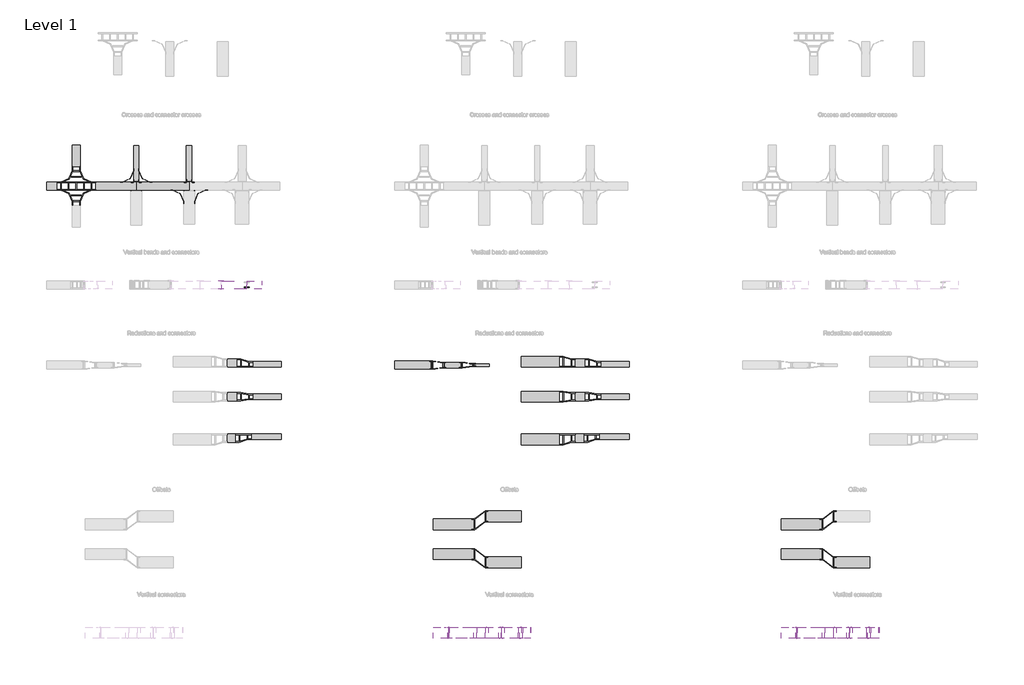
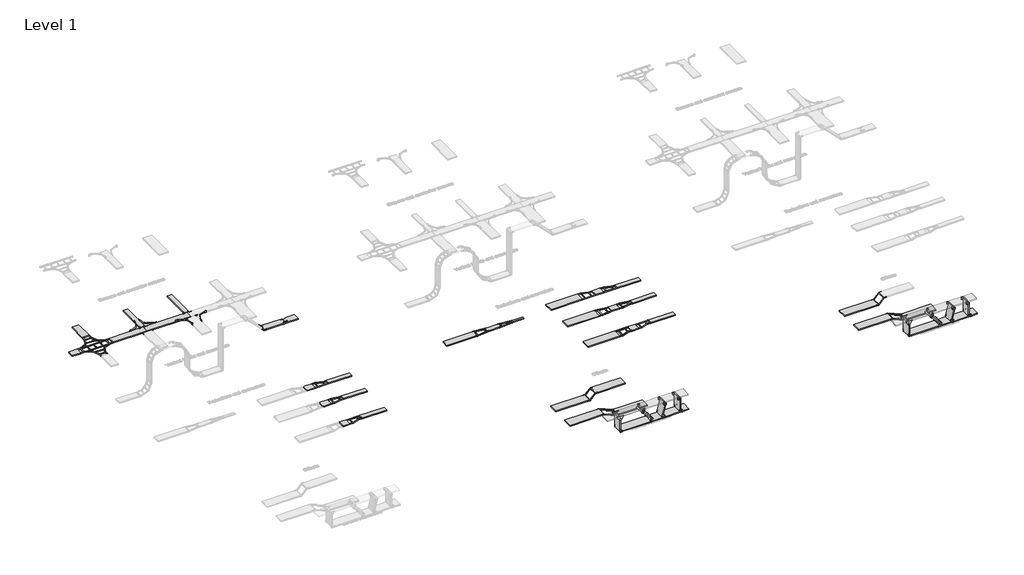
# One storey, part 9 of 106: 63 cable carrier fittings, 59 cable carrier segments.
"""IFC4 building model written with IfcOpenShell, lengths in millimetres."""

from ifc_helpers import new_model, si_unit, frame, origin, place, context, project, spatial, polyline, outline, extrude, transform, mapped, element, save
from components import cable_carrier_fitting_c78842c5, cable_carrier_fitting_6b69b3b7, cable_carrier_fitting_2d894193, cable_carrier_fitting_0f11f104, cable_carrier_fitting_c89aad98, cable_carrier_fitting_28cc8021, cable_carrier_fitting_6c66d9f1, cable_carrier_fitting_4c1293df, cable_carrier_fitting_edb32cbd, cable_carrier_fitting_a9217249, cable_carrier_fitting_c660702d, cable_carrier_fitting_87479157, cable_carrier_fitting_b11fac2c, cable_carrier_fitting_3ee89383, cable_carrier_fitting_dba92b4f, cable_carrier_fitting_45659740, cable_carrier_fitting_ec1c524e, cable_carrier_fitting_41da71e9, cable_carrier_fitting_05152c93, cable_carrier_fitting_202d3e5f, cable_carrier_fitting_ba505e55, cable_carrier_fitting_958e6ea8, cable_carrier_fitting_c25b36c4, cable_carrier_fitting_df7fb664, cable_carrier_fitting_384de159, cable_carrier_fitting_cef1446e, cable_carrier_fitting_671e1b7f, cable_carrier_fitting_ea2b664d, cable_carrier_fitting_c0237f39, cable_carrier_fitting_32c3d949, cable_carrier_fitting_d493446b, cable_carrier_fitting_82e7e0fc

model = new_model("IFC4")

# Units and contexts
model_context = context("Model", 3, world=origin())
ifc_project = project(units=[si_unit("LENGTHUNIT", "METRE", prefix="MILLI")], contexts=[model_context])

# Site, building, storey
site = spatial("IfcSite", under=ifc_project)
building = spatial("IfcBuilding", under=site)
storey = spatial("IfcBuildingStorey", under=building, Name="Level 1", Elevation=0.0)

# Cable carrier fittings
placement = place(None, origin())
cable_carrier_fitting_shape = cable_carrier_fitting_c78842c5(model_context)
element("IfcCableCarrierFitting", 1, ObjectType="BAKS_LD_CONN_Straight connector_LDC : LDC_H45", at=placement, inside=storey, context=model_context, shape_type="MappedRepresentation", body=[
    mapped(cable_carrier_fitting_shape, transform((33184.5221787, 24506.9805429, 1239.8602102), x_axis=(1.0, 0.0, 0.0), y_axis=(0.0, 1.0, 0.0), z_axis=(0.0, 0.0, 1.0))),
])
cable_carrier_fitting_2_shape = cable_carrier_fitting_6b69b3b7(model_context)
element("IfcCableCarrierFitting", 2, ObjectType="BAKS_LD_CONN_Vertical connector light_LPLS : LPLS60", at=placement, inside=storey, context=model_context, shape_type="MappedRepresentation", body=[
    mapped(cable_carrier_fitting_2_shape, transform((40659.0241468, 11907.9361079, 2052.4619182), x_axis=(-1.0, 0.0, 0.0), y_axis=(0.0, 0.0, 1.0), z_axis=(0.0, 1.0, 0.0))),
])
element("IfcCableCarrierFitting", 3, ObjectType="BAKS_LD_CONN_Vertical connector light_LPLS : LPLS60", at=placement, inside=storey, context=model_context, shape_type="MappedRepresentation", body=[
    mapped(cable_carrier_fitting_2_shape, transform((53559.0241468, 11907.9361079, 2052.4619182), x_axis=(-1.0, 0.0, 0.0), y_axis=(0.0, 0.0, 1.0), z_axis=(0.0, 1.0, 0.0))),
])
cable_carrier_fitting_3_shape = cable_carrier_fitting_2d894193(model_context)
element("IfcCableCarrierFitting", 4, ObjectType="BAKS_LD_CONN_Angle coupler bendable_LKU : LKUP_H45", at=placement, inside=storey, context=model_context, shape_type="MappedRepresentation", body=[
    mapped(cable_carrier_fitting_3_shape, transform((29189.2849338, 28420.7686574, 32.5), x_axis=(-1.0, 0.0, 0.0), y_axis=(0.0, -1.0, 0.0), z_axis=(0.0, 0.0, 1.0))),
])
element("IfcCableCarrierFitting", 5, ObjectType="BAKS_LD_CONN_Angle coupler bendable_LKU : LKUP_H45", at=placement, inside=storey, context=model_context, shape_type="MappedRepresentation", body=[
    mapped(cable_carrier_fitting_3_shape, transform((28989.2849338, 28420.7686574, 32.5), x_axis=(0.0, -1.0, 0.0), y_axis=(1.0, 0.0, 0.0), z_axis=(0.0, 0.0, 1.0))),
])
element("IfcCableCarrierFitting", 6, ObjectType="BAKS_LD_CONN_Angle coupler bendable_LKU : LKUP_H45", at=placement, inside=storey, context=model_context, shape_type="MappedRepresentation", body=[
    mapped(cable_carrier_fitting_3_shape, transform((28889.2849338, 28120.7686574, 30.0), x_axis=(1.0, 0.0, 0.0), y_axis=(0.0, 1.0, 0.0), z_axis=(0.0, 0.0, 1.0))),
])
element("IfcCableCarrierFitting", 7, ObjectType="BAKS_LD_CONN_Angle coupler bendable_LKU : LKUP_H45", at=placement, inside=storey, context=model_context, shape_type="MappedRepresentation", body=[
    mapped(cable_carrier_fitting_3_shape, transform((31150.9231102, 28420.7686574, 32.5), x_axis=(-1.0, 0.0, 0.0), y_axis=(0.0, -1.0, 0.0), z_axis=(0.0, 0.0, 1.0))),
])
element("IfcCableCarrierFitting", 8, ObjectType="BAKS_LD_CONN_Angle coupler bendable_LKU : LKUP_H45", at=placement, inside=storey, context=model_context, shape_type="MappedRepresentation", body=[
    mapped(cable_carrier_fitting_3_shape, transform((30950.9231102, 28420.7686574, 32.5), x_axis=(0.0, -1.0, 0.0), y_axis=(1.0, 0.0, 0.0), z_axis=(0.0, 0.0, 1.0))),
])
element("IfcCableCarrierFitting", 9, ObjectType="BAKS_LD_CONN_Angle coupler bendable_LKU : LKUP_H45", at=placement, inside=storey, context=model_context, shape_type="MappedRepresentation", body=[
    mapped(cable_carrier_fitting_3_shape, transform((30850.9231102, 28120.7686574, 30.0), x_axis=(1.0, 0.0, 0.0), y_axis=(0.0, 1.0, 0.0), z_axis=(0.0, 0.0, 1.0))),
])
cable_carrier_fitting_4_shape = cable_carrier_fitting_0f11f104(model_context)
element("IfcCableCarrierFitting", 10, ObjectType="BAKS_LD_CONN_Addon connector_LDDK : LDDKP", at=placement, inside=storey, context=model_context, shape_type="MappedRepresentation", body=[
    mapped(cable_carrier_fitting_4_shape, transform((29189.2849338, 28420.7686574, 55.0), x_axis=(-1.0, 0.0, 0.0), y_axis=(0.0, -1.0, 0.0), z_axis=(0.0, 0.0, 1.0))),
])
element("IfcCableCarrierFitting", 11, ObjectType="BAKS_LD_CONN_Addon connector_LDDK : LDDKP", at=placement, inside=storey, context=model_context, shape_type="MappedRepresentation", body=[
    mapped(cable_carrier_fitting_4_shape, transform((30850.9231102, 28120.7686574, 55.0), x_axis=(1.0, 0.0, 0.0), y_axis=(0.0, 1.0, 0.0), z_axis=(0.0, 0.0, 1.0))),
])
cable_carrier_fitting_5_shape = cable_carrier_fitting_c89aad98(model_context)
element("IfcCableCarrierFitting", 12, ObjectType="BAKS_LD_CONN_Vertical connector light_LPLS : LPLS60", at=placement, inside=storey, context=model_context, shape_type="MappedRepresentation", body=[
    mapped(cable_carrier_fitting_5_shape, transform((40659.0241468, 11507.9361079, 2052.4619182), x_axis=(-1.0, 0.0, 0.0), y_axis=(0.0, 0.0, -1.0), z_axis=(0.0, -1.0, 0.0))),
])
element("IfcCableCarrierFitting", 13, ObjectType="BAKS_LD_CONN_Vertical connector light_LPLS : LPLS60", at=placement, inside=storey, context=model_context, shape_type="MappedRepresentation", body=[
    mapped(cable_carrier_fitting_5_shape, transform((53559.0241468, 11507.9361079, 2052.4619182), x_axis=(-1.0, 0.0, 0.0), y_axis=(0.0, 0.0, -1.0), z_axis=(0.0, -1.0, 0.0))),
])
cable_carrier_fitting_6_shape = cable_carrier_fitting_28cc8021(model_context)
element("IfcCableCarrierFitting", 14, ObjectType="BAKS_LD_RED_Straight reducer_RD : RD(S/L/P)P_H45", at=placement, inside=storey, context=model_context, shape_type="MappedRepresentation", body=[
    mapped(cable_carrier_fitting_6_shape, transform((44765.5222547, 20457.8476348, 55.0), x_axis=(1.0, 0.0, 0.0), y_axis=(0.0, 1.0, 0.0), z_axis=(0.0, 0.0, 1.0))),
])
cable_carrier_fitting_7_shape = cable_carrier_fitting_6c66d9f1(model_context)
element("IfcCableCarrierFitting", 15, ObjectType="BAKS_LD_BEND_Articulated connector_LG : LGT_H45", at=placement, inside=storey, context=model_context, shape_type="MappedRepresentation", body=[
    mapped(cable_carrier_fitting_7_shape, transform((40659.0241468, 11507.9361079, 1334.7815792), x_axis=(0.0, 0.0, -1.0), y_axis=(1.0, 0.0, 0.0), z_axis=(0.0, -1.0, 0.0))),
])
cable_carrier_fitting_8_shape = cable_carrier_fitting_4c1293df(model_context)
element("IfcCableCarrierFitting", 16, ObjectType="BAKS_LD_BEND_Articulated connector_LG : LGT_H45", at=placement, inside=storey, context=model_context, shape_type="MappedRepresentation", body=[
    mapped(cable_carrier_fitting_8_shape, transform((40659.0241468, 11907.9361079, 1334.7815792), x_axis=(0.0, 0.0, -1.0), y_axis=(-1.0, 0.0, 0.0), z_axis=(0.0, 1.0, 0.0))),
])
cable_carrier_fitting_9_shape = cable_carrier_fitting_edb32cbd(model_context)
element("IfcCableCarrierFitting", 17, ObjectType="BAKS_LD_CROSS_Horizontal cross over_CZD : CZDP_H45", at=placement, inside=storey, context=model_context, shape_type="MappedRepresentation", body=[
    mapped(cable_carrier_fitting_9_shape, transform((26864.7261828, 28270.7686574, 55.0), x_axis=(-1.0, 0.0, 0.0), y_axis=(0.0, -1.0, 0.0), z_axis=(0.0, 0.0, 1.0))),
])
cable_carrier_fitting_10_shape = cable_carrier_fitting_a9217249(model_context)
element("IfcCableCarrierFitting", 18, ObjectType="BAKS_LD_CONN_Addon connector_LDDK : LDDKP", at=placement, inside=storey, context=model_context, shape_type="MappedRepresentation", body=[
    mapped(cable_carrier_fitting_10_shape, transform((28989.2849338, 28420.7686574, 55.0), x_axis=(1.0, 0.0, 0.0), y_axis=(0.0, 1.0, 0.0), z_axis=(0.0, 0.0, 1.0))),
])
element("IfcCableCarrierFitting", 19, ObjectType="BAKS_LD_CONN_Addon connector_LDDK : LDDKP", at=placement, inside=storey, context=model_context, shape_type="MappedRepresentation", body=[
    mapped(cable_carrier_fitting_10_shape, transform((31250.9231102, 28120.7686574, 55.0), x_axis=(-1.0, 0.0, 0.0), y_axis=(0.0, -1.0, 0.0), z_axis=(0.0, 0.0, 1.0))),
])
cable_carrier_fitting_11_shape = cable_carrier_fitting_c660702d(model_context)
element("IfcCableCarrierFitting", 20, ObjectType="BAKS_LD_CONN_Angle coupler bendable_LKU : LKUP_H45", at=placement, inside=storey, context=model_context, shape_type="MappedRepresentation", body=[
    mapped(cable_carrier_fitting_11_shape, transform((29289.2849338, 28120.7686574, 30.0), x_axis=(-1.0, 0.0, 0.0), y_axis=(0.0, -1.0, 0.0), z_axis=(0.0, 0.0, 1.0))),
])
element("IfcCableCarrierFitting", 21, ObjectType="BAKS_LD_CONN_Angle coupler bendable_LKU : LKUP_H45", at=placement, inside=storey, context=model_context, shape_type="MappedRepresentation", body=[
    mapped(cable_carrier_fitting_11_shape, transform((31250.9231102, 28120.7686574, 30.0), x_axis=(-1.0, 0.0, 0.0), y_axis=(0.0, -1.0, 0.0), z_axis=(0.0, 0.0, 1.0))),
])
cable_carrier_fitting_12_shape = cable_carrier_fitting_87479157(model_context)
element("IfcCableCarrierFitting", 22, ObjectType="BAKS_LD_BEND_Articulated connector_LG : LGT_H45", at=placement, inside=storey, context=model_context, shape_type="MappedRepresentation", body=[
    mapped(cable_carrier_fitting_12_shape, transform((32224.5221787, 24456.9805429, 1239.8602102), x_axis=(0.7071067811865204, 0.0, -0.7071067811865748), y_axis=(0.7071067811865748, 0.0, 0.7071067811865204), z_axis=(0.0, -1.0, 0.0))),
])
cable_carrier_fitting_13_shape = cable_carrier_fitting_b11fac2c(model_context)
element("IfcCableCarrierFitting", 23, ObjectType="BAKS_LD_BEND_Articulated connector_LG : LGT_H45", at=placement, inside=storey, context=model_context, shape_type="MappedRepresentation", body=[
    mapped(cable_carrier_fitting_13_shape, transform((32224.5221787, 24756.9805429, 1239.8602102), x_axis=(0.7071067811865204, 0.0, -0.7071067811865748), y_axis=(-0.7071067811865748, 0.0, -0.7071067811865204), z_axis=(0.0, 1.0, 0.0))),
])
cable_carrier_fitting_14_shape = cable_carrier_fitting_3ee89383(model_context)
element("IfcCableCarrierFitting", 24, ObjectType="BAKS_LD_CONN_Univarsal connector reduction_LLUS : LLUSP_H45", at=placement, inside=storey, context=model_context, shape_type="MappedRepresentation", body=[
    mapped(cable_carrier_fitting_14_shape, transform((41064.3823889, 21631.6579459, 55.0), x_axis=(1.0, 0.0, 0.0), y_axis=(0.0, 1.0, 0.0), z_axis=(0.0, 0.0, 1.0))),
])
cable_carrier_fitting_15_shape = cable_carrier_fitting_dba92b4f(model_context)
element("IfcCableCarrierFitting", 25, ObjectType="BAKS_LD_RED_Straight reducer_RD : RD(S/L/P)P_H45", at=placement, inside=storey, context=model_context, shape_type="MappedRepresentation", body=[
    mapped(cable_carrier_fitting_15_shape, transform((44765.5222547, 18871.6579459, 55.0), x_axis=(1.0, 0.0, 0.0), y_axis=(0.0, 1.0, 0.0), z_axis=(0.0, 0.0, 1.0))),
])
cable_carrier_fitting_16_shape = cable_carrier_fitting_45659740(model_context)
element("IfcCableCarrierFitting", 26, ObjectType="BAKS_LD_RED_Straight reducer_RD : RD(S/L/P)P_H45", at=placement, inside=storey, context=model_context, shape_type="MappedRepresentation", body=[
    mapped(cable_carrier_fitting_16_shape, transform((33365.5222547, 18971.6579459, 55.0), x_axis=(-1.0, 0.0, 0.0), y_axis=(0.0, -1.0, 0.0), z_axis=(0.0, 0.0, 1.0))),
])
element("IfcCableCarrierFitting", 27, ObjectType="BAKS_LD_RED_Straight reducer_RD : RD(S/L/P)P_H45", at=placement, inside=storey, context=model_context, shape_type="MappedRepresentation", body=[
    mapped(cable_carrier_fitting_16_shape, transform((46265.5222547, 18971.6579459, 55.0), x_axis=(-1.0, 0.0, 0.0), y_axis=(0.0, -1.0, 0.0), z_axis=(0.0, 0.0, 1.0))),
])
cable_carrier_fitting_17_shape = cable_carrier_fitting_ec1c524e(model_context)
element("IfcCableCarrierFitting", 28, ObjectType="BAKS_LD_RED_Straight reducer_RD : RD(S/L/P)P_H45", at=placement, inside=storey, context=model_context, shape_type="MappedRepresentation", body=[
    mapped(cable_carrier_fitting_17_shape, transform((44765.5222547, 21757.8476348, 55.0), x_axis=(1.0, 0.0, 0.0), y_axis=(0.0, 1.0, 0.0), z_axis=(0.0, 0.0, 1.0))),
])
cable_carrier_fitting_18_shape = cable_carrier_fitting_41da71e9(model_context)
element("IfcCableCarrierFitting", 29, ObjectType="BAKS_LD_RED_Straight reducer_RD : RD(S/L/P)P_H45", at=placement, inside=storey, context=model_context, shape_type="MappedRepresentation", body=[
    mapped(cable_carrier_fitting_18_shape, transform((33416.5656993, 21657.8476348, 55.0), x_axis=(-1.0, 0.0, 0.0), y_axis=(0.0, -1.0, 0.0), z_axis=(0.0, 0.0, 1.0))),
])
element("IfcCableCarrierFitting", 30, ObjectType="BAKS_LD_RED_Straight reducer_RD : RD(S/L/P)P_H45", at=placement, inside=storey, context=model_context, shape_type="MappedRepresentation", body=[
    mapped(cable_carrier_fitting_18_shape, transform((46316.5656993, 21657.8476348, 55.0), x_axis=(-1.0, 0.0, 0.0), y_axis=(0.0, -1.0, 0.0), z_axis=(0.0, 0.0, 1.0))),
])
cable_carrier_fitting_19_shape = cable_carrier_fitting_05152c93(model_context)
element("IfcCableCarrierFitting", 31, ObjectType="BAKS_LD_RED_Straight reducer_RD : RD(S/L/P)P_H45", at=placement, inside=storey, context=model_context, shape_type="MappedRepresentation", body=[
    mapped(cable_carrier_fitting_19_shape, transform((33416.5656993, 20457.8476348, 55.0), x_axis=(-1.0, 0.0, 0.0), y_axis=(0.0, -1.0, 0.0), z_axis=(0.0, 0.0, 1.0))),
])
element("IfcCableCarrierFitting", 32, ObjectType="BAKS_LD_RED_Straight reducer_RD : RD(S/L/P)P_H45", at=placement, inside=storey, context=model_context, shape_type="MappedRepresentation", body=[
    mapped(cable_carrier_fitting_19_shape, transform((46316.5656993, 20457.8476348, 55.0), x_axis=(-1.0, 0.0, 0.0), y_axis=(0.0, -1.0, 0.0), z_axis=(0.0, 0.0, 1.0))),
])
cable_carrier_fitting_20_shape = cable_carrier_fitting_202d3e5f(model_context)
element("IfcCableCarrierFitting", 33, ObjectType="BAKS_LD_CONN_Univarsal connector reduction_LLUS : LLUSP_H45", at=placement, inside=storey, context=model_context, shape_type="MappedRepresentation", body=[
    mapped(cable_carrier_fitting_20_shape, transform((39964.3823889, 21631.6579459, 55.0), x_axis=(1.0, 0.0, 0.0), y_axis=(0.0, 1.0, 0.0), z_axis=(0.0, 0.0, 1.0))),
])
cable_carrier_fitting_21_shape = cable_carrier_fitting_ba505e55(model_context)
element("IfcCableCarrierFitting", 34, ObjectType="BAKS_LD_CONN_Univarsal connector offset_LLUS : LLUSP_H45", at=placement, inside=storey, context=model_context, shape_type="MappedRepresentation", body=[
    mapped(cable_carrier_fitting_21_shape, transform((41595.3508196, 15720.3591551, 55.0), x_axis=(1.0, 0.0, 0.0), y_axis=(0.0, 1.0, 0.0), z_axis=(0.0, 0.0, 1.0))),
])
cable_carrier_fitting_22_shape = cable_carrier_fitting_958e6ea8(model_context)
element("IfcCableCarrierFitting", 35, ObjectType="BAKS_LD_CONN_Univarsal connector offset_LLUS : LLUSP_H45", at=placement, inside=storey, context=model_context, shape_type="MappedRepresentation", body=[
    mapped(cable_carrier_fitting_22_shape, transform((41595.3508196, 14620.3591551, 55.0), x_axis=(1.0, 0.0, 0.0), y_axis=(0.0, 1.0, 0.0), z_axis=(0.0, 0.0, 1.0))),
])
cable_carrier_fitting_23_shape = cable_carrier_fitting_c25b36c4(model_context)
element("IfcCableCarrierFitting", 36, ObjectType="BAKS_LD_TEE_Articulated connector attachable_LDD : LDDT_H45", at=placement, inside=storey, context=model_context, shape_type="MappedRepresentation", body=[
    mapped(cable_carrier_fitting_23_shape, transform((41710.266251, 11507.9361079, 1949.9576433), x_axis=(1.0, 0.0, 0.0), y_axis=(0.0, 1.0, 0.0), z_axis=(0.0, 0.0, 1.0))),
])
element("IfcCableCarrierFitting", 37, ObjectType="BAKS_LD_TEE_Articulated connector attachable_LDD : LDDT_H45", at=placement, inside=storey, context=model_context, shape_type="MappedRepresentation", body=[
    mapped(cable_carrier_fitting_23_shape, transform((42028.739213, 11507.9361079, 1412.2815792), x_axis=(-1.0, 0.0, 0.0), y_axis=(0.0, 1.0, 0.0), z_axis=(0.0, 0.0, -1.0))),
])
cable_carrier_fitting_24_shape = cable_carrier_fitting_df7fb664(model_context)
element("IfcCableCarrierFitting", 38, ObjectType="BAKS_LD_TEE_Articulated connector attachable_LDD : LDDT_H45", at=placement, inside=storey, context=model_context, shape_type="MappedRepresentation", body=[
    mapped(cable_carrier_fitting_24_shape, transform((41710.266251, 11907.9361079, 1949.9576433), x_axis=(1.0, 0.0, 0.0), y_axis=(0.0, 1.0, 0.0), z_axis=(0.0, 0.0, 1.0))),
])
element("IfcCableCarrierFitting", 39, ObjectType="BAKS_LD_TEE_Articulated connector attachable_LDD : LDDT_H45", at=placement, inside=storey, context=model_context, shape_type="MappedRepresentation", body=[
    mapped(cable_carrier_fitting_24_shape, transform((42028.739213, 11907.9361079, 1412.2815792), x_axis=(-1.0, 0.0, 0.0), y_axis=(0.0, 1.0, 0.0), z_axis=(0.0, 0.0, -1.0))),
])
cable_carrier_fitting_25_shape = cable_carrier_fitting_384de159(model_context)
element("IfcCableCarrierFitting", 40, ObjectType="BAKS_LD_TEE_Articulated connector attachable_LDD : LDDT_H45", at=placement, inside=storey, context=model_context, shape_type="MappedRepresentation", body=[
    mapped(cable_carrier_fitting_25_shape, transform((42626.8193277, 11907.9361079, 1412.2815792), x_axis=(1.0, 0.0, 0.0), y_axis=(0.0, -1.0, 0.0), z_axis=(0.0, 0.0, -1.0))),
])
element("IfcCableCarrierFitting", 41, ObjectType="BAKS_LD_TEE_Articulated connector attachable_LDD : LDDT_H45", at=placement, inside=storey, context=model_context, shape_type="MappedRepresentation", body=[
    mapped(cable_carrier_fitting_25_shape, transform((42610.4138626, 11907.9361079, 1949.9295622), x_axis=(-1.0, 0.0, 0.0), y_axis=(0.0, -1.0, 0.0), z_axis=(0.0, 0.0, 1.0))),
])
cable_carrier_fitting_26_shape = cable_carrier_fitting_cef1446e(model_context)
element("IfcCableCarrierFitting", 42, ObjectType="BAKS_LD_TEE_Articulated connector attachable_LDD : LDDT_H45", at=placement, inside=storey, context=model_context, shape_type="MappedRepresentation", body=[
    mapped(cable_carrier_fitting_26_shape, transform((42626.8193277, 11507.9361079, 1412.2815792), x_axis=(1.0, 0.0, 0.0), y_axis=(0.0, -1.0, 0.0), z_axis=(0.0, 0.0, -1.0))),
])
element("IfcCableCarrierFitting", 43, ObjectType="BAKS_LD_TEE_Articulated connector attachable_LDD : LDDT_H45", at=placement, inside=storey, context=model_context, shape_type="MappedRepresentation", body=[
    mapped(cable_carrier_fitting_26_shape, transform((42610.4138626, 11507.9361079, 1949.9295622), x_axis=(-1.0, 0.0, 0.0), y_axis=(0.0, -1.0, 0.0), z_axis=(0.0, 0.0, 1.0))),
])
cable_carrier_fitting_27_shape = cable_carrier_fitting_671e1b7f(model_context)
element("IfcCableCarrierFitting", 44, ObjectType="BAKS_LD_TEE_Articulated connector attachable_LDD : LDDT_H45", at=placement, inside=storey, context=model_context, shape_type="MappedRepresentation", body=[
    mapped(cable_carrier_fitting_27_shape, transform((43252.1274343, 11907.9361079, 1949.9576433), x_axis=(-1.0, 0.0, 0.0), y_axis=(0.0, -1.0, 0.0), z_axis=(0.0, 0.0, 1.0))),
])
element("IfcCableCarrierFitting", 45, ObjectType="BAKS_LD_TEE_Articulated connector attachable_LDD : LDDT_H45", at=placement, inside=storey, context=model_context, shape_type="MappedRepresentation", body=[
    mapped(cable_carrier_fitting_27_shape, transform((43407.1274343, 11907.9361079, 1412.2815792), x_axis=(1.0, 0.0, 0.0), y_axis=(0.0, -1.0, 0.0), z_axis=(0.0, 0.0, -1.0))),
])
cable_carrier_fitting_28_shape = cable_carrier_fitting_ea2b664d(model_context)
element("IfcCableCarrierFitting", 46, ObjectType="BAKS_LD_TEE_Articulated connector attachable_LDD : LDDT_H45", at=placement, inside=storey, context=model_context, shape_type="MappedRepresentation", body=[
    mapped(cable_carrier_fitting_28_shape, transform((43252.1274343, 11507.9361079, 1949.9576433), x_axis=(-1.0, 0.0, 0.0), y_axis=(0.0, -1.0, 0.0), z_axis=(0.0, 0.0, 1.0))),
])
element("IfcCableCarrierFitting", 47, ObjectType="BAKS_LD_TEE_Articulated connector attachable_LDD : LDDT_H45", at=placement, inside=storey, context=model_context, shape_type="MappedRepresentation", body=[
    mapped(cable_carrier_fitting_28_shape, transform((43407.1274343, 11507.9361079, 1412.2815792), x_axis=(1.0, 0.0, 0.0), y_axis=(0.0, -1.0, 0.0), z_axis=(0.0, 0.0, -1.0))),
])
cable_carrier_fitting_29_shape = cable_carrier_fitting_c0237f39(model_context)
element("IfcCableCarrierFitting", 48, ObjectType="BAKS_LD_BEND_Articulated connector_LG : LGC_H45", at=placement, inside=storey, context=model_context, shape_type="MappedRepresentation", body=[
    mapped(cable_carrier_fitting_29_shape, transform((53559.0241468, 11507.9361079, 1334.7815792), x_axis=(0.0, 0.0, -1.0), y_axis=(1.0, 0.0, 0.0), z_axis=(0.0, -1.0, 0.0))),
])
cable_carrier_fitting_30_shape = cable_carrier_fitting_32c3d949(model_context)
element("IfcCableCarrierFitting", 49, ObjectType="BAKS_LD_BEND_Articulated connector_LG : LGC_H45", at=placement, inside=storey, context=model_context, shape_type="MappedRepresentation", body=[
    mapped(cable_carrier_fitting_30_shape, transform((53559.0241468, 11907.9361079, 1334.7815792), x_axis=(0.0, 0.0, -1.0), y_axis=(-1.0, 0.0, 0.0), z_axis=(0.0, 1.0, 0.0))),
])
cable_carrier_fitting_31_shape = cable_carrier_fitting_d493446b(model_context)
element("IfcCableCarrierFitting", 50, ObjectType="BAKS_LD_CONN_Univarsal connector offset_LLUS : LLUS_H45", at=placement, inside=storey, context=model_context, shape_type="MappedRepresentation", body=[
    mapped(cable_carrier_fitting_31_shape, transform((54495.3508196, 15720.3591551, 55.0), x_axis=(1.0, 0.0, 0.0), y_axis=(0.0, 1.0, 0.0), z_axis=(0.0, 0.0, 1.0))),
])
cable_carrier_fitting_32_shape = cable_carrier_fitting_82e7e0fc(model_context)
element("IfcCableCarrierFitting", 51, ObjectType="BAKS_LD_CONN_Univarsal connector offset_LLUS : LLUS_H45", at=placement, inside=storey, context=model_context, shape_type="MappedRepresentation", body=[
    mapped(cable_carrier_fitting_32_shape, transform((54495.3508196, 14620.3591551, 55.0), x_axis=(1.0, 0.0, 0.0), y_axis=(0.0, 1.0, 0.0), z_axis=(0.0, 0.0, 1.0))),
])
element("IfcCableCarrierFitting", 52, ObjectType="BAKS_LD_TEE_Articulated connector attachable_LDD : LDDC_H45", at=placement, inside=storey, context=model_context, shape_type="MappedRepresentation", body=[
    mapped(cable_carrier_fitting_24_shape, transform((54610.266251, 11907.9361079, 1949.9576433), x_axis=(1.0, 0.0, 0.0), y_axis=(0.0, 1.0, 0.0), z_axis=(0.0, 0.0, 1.0))),
])
element("IfcCableCarrierFitting", 53, ObjectType="BAKS_LD_TEE_Articulated connector attachable_LDD : LDDC_H45", at=placement, inside=storey, context=model_context, shape_type="MappedRepresentation", body=[
    mapped(cable_carrier_fitting_24_shape, transform((54928.739213, 11907.9361079, 1412.2815792), x_axis=(-1.0, 0.0, 0.0), y_axis=(0.0, 1.0, 0.0), z_axis=(0.0, 0.0, -1.0))),
])
element("IfcCableCarrierFitting", 54, ObjectType="BAKS_LD_TEE_Articulated connector attachable_LDD : LDDC_H45", at=placement, inside=storey, context=model_context, shape_type="MappedRepresentation", body=[
    mapped(cable_carrier_fitting_23_shape, transform((54610.266251, 11507.9361079, 1949.9576433), x_axis=(1.0, 0.0, 0.0), y_axis=(0.0, 1.0, 0.0), z_axis=(0.0, 0.0, 1.0))),
])
element("IfcCableCarrierFitting", 55, ObjectType="BAKS_LD_TEE_Articulated connector attachable_LDD : LDDC_H45", at=placement, inside=storey, context=model_context, shape_type="MappedRepresentation", body=[
    mapped(cable_carrier_fitting_23_shape, transform((54928.739213, 11507.9361079, 1412.2815792), x_axis=(-1.0, 0.0, 0.0), y_axis=(0.0, 1.0, 0.0), z_axis=(0.0, 0.0, -1.0))),
])
element("IfcCableCarrierFitting", 56, ObjectType="BAKS_LD_TEE_Articulated connector attachable_LDD : LDDC_H45", at=placement, inside=storey, context=model_context, shape_type="MappedRepresentation", body=[
    mapped(cable_carrier_fitting_25_shape, transform((55526.8193277, 11907.9361079, 1412.2815792), x_axis=(1.0, 0.0, 0.0), y_axis=(0.0, -1.0, 0.0), z_axis=(0.0, 0.0, -1.0))),
])
element("IfcCableCarrierFitting", 57, ObjectType="BAKS_LD_TEE_Articulated connector attachable_LDD : LDDC_H45", at=placement, inside=storey, context=model_context, shape_type="MappedRepresentation", body=[
    mapped(cable_carrier_fitting_25_shape, transform((55510.4138626, 11907.9361079, 1949.9295622), x_axis=(-1.0, 0.0, 0.0), y_axis=(0.0, -1.0, 0.0), z_axis=(0.0, 0.0, 1.0))),
])
element("IfcCableCarrierFitting", 58, ObjectType="BAKS_LD_TEE_Articulated connector attachable_LDD : LDDC_H45", at=placement, inside=storey, context=model_context, shape_type="MappedRepresentation", body=[
    mapped(cable_carrier_fitting_26_shape, transform((55526.8193277, 11507.9361079, 1412.2815792), x_axis=(1.0, 0.0, 0.0), y_axis=(0.0, -1.0, 0.0), z_axis=(0.0, 0.0, -1.0))),
])
element("IfcCableCarrierFitting", 59, ObjectType="BAKS_LD_TEE_Articulated connector attachable_LDD : LDDC_H45", at=placement, inside=storey, context=model_context, shape_type="MappedRepresentation", body=[
    mapped(cable_carrier_fitting_26_shape, transform((55510.4138626, 11507.9361079, 1949.9295622), x_axis=(-1.0, 0.0, 0.0), y_axis=(0.0, -1.0, 0.0), z_axis=(0.0, 0.0, 1.0))),
])
element("IfcCableCarrierFitting", 60, ObjectType="BAKS_LD_TEE_Articulated connector attachable_LDD : LDDC_H45", at=placement, inside=storey, context=model_context, shape_type="MappedRepresentation", body=[
    mapped(cable_carrier_fitting_27_shape, transform((56152.1274343, 11907.9361079, 1949.9576433), x_axis=(-1.0, 0.0, 0.0), y_axis=(0.0, -1.0, 0.0), z_axis=(0.0, 0.0, 1.0))),
])
element("IfcCableCarrierFitting", 61, ObjectType="BAKS_LD_TEE_Articulated connector attachable_LDD : LDDC_H45", at=placement, inside=storey, context=model_context, shape_type="MappedRepresentation", body=[
    mapped(cable_carrier_fitting_27_shape, transform((56307.1274343, 11907.9361079, 1412.2815792), x_axis=(1.0, 0.0, 0.0), y_axis=(0.0, -1.0, 0.0), z_axis=(0.0, 0.0, -1.0))),
])
element("IfcCableCarrierFitting", 62, ObjectType="BAKS_LD_TEE_Articulated connector attachable_LDD : LDDC_H45", at=placement, inside=storey, context=model_context, shape_type="MappedRepresentation", body=[
    mapped(cable_carrier_fitting_28_shape, transform((56152.1274343, 11507.9361079, 1949.9576433), x_axis=(-1.0, 0.0, 0.0), y_axis=(0.0, -1.0, 0.0), z_axis=(0.0, 0.0, 1.0))),
])
element("IfcCableCarrierFitting", 63, ObjectType="BAKS_LD_TEE_Articulated connector attachable_LDD : LDDC_H45", at=placement, inside=storey, context=model_context, shape_type="MappedRepresentation", body=[
    mapped(cable_carrier_fitting_28_shape, transform((56307.1274343, 11507.9361079, 1412.2815792), x_axis=(1.0, 0.0, 0.0), y_axis=(0.0, -1.0, 0.0), z_axis=(0.0, 0.0, -1.0))),
])

# Cable carrier segments
element("IfcCableCarrierSegment", 64, ObjectType="BAKS - Ladder H45 (DUD)", at=placement, inside=storey, context=model_context, shape_type="SweptSolid", body=[
    extrude(outline(polyline([(25764.3823889, 28120.7686574), (25764.3823889, 28420.7686574), (26144.7261828, 28420.7686574), (26144.7261828, 28120.7686574), (25764.3823889, 28120.7686574)])), frame((0.0, 0.0, 32.5), z_axis=(0.0, 0.0, 1.0), x_axis=(1.0, 0.0, 0.0)), (0.0, 0.0, 1.0), 45.0),
])
element("IfcCableCarrierSegment", 65, ObjectType="BAKS - Ladder H45 (DUD)", at=placement, inside=storey, context=model_context, shape_type="SweptSolid", body=[
    extrude(outline(polyline([(27584.7261828, 28120.7686574), (27584.7261828, 28420.7686574), (29087.7849338, 28420.7686574), (29087.7849338, 28120.7686574), (27584.7261828, 28120.7686574)])), frame((0.0, 0.0, 32.5), z_axis=(0.0, 0.0, 1.0), x_axis=(1.0, 0.0, 0.0)), (0.0, 0.0, 1.0), 45.0),
])
element("IfcCableCarrierSegment", 66, ObjectType="BAKS - Ladder H45 (DUD)", at=placement, inside=storey, context=model_context, shape_type="SweptSolid", body=[
    extrude(outline(polyline([(29090.7849338, 28120.7686574), (29090.7849338, 28420.7686574), (31049.4231102, 28420.7686574), (31049.4231102, 28120.7686574), (29090.7849338, 28120.7686574)])), frame((0.0, 0.0, 32.5), z_axis=(0.0, 0.0, 1.0), x_axis=(1.0, 0.0, 0.0)), (0.0, 0.0, 1.0), 45.0),
])
element("IfcCableCarrierSegment", 67, ObjectType="BAKS - Ladder H45 (DUD)", at=placement, inside=storey, context=model_context, shape_type="SweptSolid", body=[
    extrude(outline(polyline([(27014.7261828, 28990.7686574), (26714.7261828, 28990.7686574), (26714.7261828, 29790.7686574), (27014.7261828, 29790.7686574), (27014.7261828, 28990.7686574)])), frame((0.0, 0.0, 32.5), z_axis=(0.0, 0.0, 1.0), x_axis=(1.0, 0.0, 0.0)), (0.0, 0.0, 1.0), 45.0),
])
element("IfcCableCarrierSegment", 68, ObjectType="BAKS - Ladder H45 (DUD)", at=placement, inside=storey, context=model_context, shape_type="SweptSolid", body=[
    extrude(outline(polyline([(29189.2849338, 28450.7686574), (28989.2849338, 28450.7686574), (28989.2849338, 29770.7686574), (29189.2849338, 29770.7686574), (29189.2849338, 28450.7686574)])), frame((0.0, 0.0, 32.5), z_axis=(0.0, 0.0, 1.0), x_axis=(1.0, 0.0, 0.0)), (0.0, 0.0, 1.0), 45.0),
])
element("IfcCableCarrierSegment", 69, ObjectType="BAKS - Ladder H45 (DUD)", at=placement, inside=storey, context=model_context, shape_type="SweptSolid", body=[
    extrude(outline(polyline([(31150.9231102, 28450.7686574), (30950.9231102, 28450.7686574), (30950.9231102, 29770.7686574), (31150.9231102, 29770.7686574), (31150.9231102, 28450.7686574)])), frame((0.0, 0.0, 32.5), z_axis=(0.0, 0.0, 1.0), x_axis=(1.0, 0.0, 0.0)), (0.0, 0.0, 1.0), 45.0),
])
element("IfcCableCarrierSegment", 70, ObjectType="BAKS - Ladder H45 (DUD)", at=placement, inside=storey, context=model_context, shape_type="SweptSolid", body=[
    extrude(outline(polyline([(33185.5221787, 24456.9805429), (33185.5221787, 24756.9805429), (33744.5221787, 24756.9805429), (33744.5221787, 24456.9805429), (33185.5221787, 24456.9805429)])), frame((0.0, 0.0, 1217.3602102), z_axis=(0.0, 0.0, 1.0), x_axis=(1.0, 0.0, 0.0)), (0.0, 0.0, 1.0), 45.0),
])
element("IfcCableCarrierSegment", 71, ObjectType="BAKS - Ladder H45 (DUD)", at=placement, inside=storey, context=model_context, shape_type="SweptSolid", body=[
    extrude(outline(polyline([(32249.5221787, 24456.9805429), (32249.5221787, 24756.9805429), (33184.5221787, 24756.9805429), (33184.5221787, 24456.9805429), (32249.5221787, 24456.9805429)])), frame((0.0, 0.0, 1217.3602102), z_axis=(0.0, 0.0, 1.0), x_axis=(1.0, 0.0, 0.0)), (0.0, 0.0, 1.0), 45.0),
])
element("IfcCableCarrierSegment", 72, ObjectType="BAKS - Ladder H45 (DUD)", at=placement, inside=storey, context=model_context, shape_type="SweptSolid", body=[
    extrude(outline(polyline([(32765.5222547, 19071.6579459), (32765.5222547, 18771.6579459), (32465.5222547, 18771.6579459), (32465.5222547, 19071.6579459), (32765.5222547, 19071.6579459)])), frame((0.0, 0.0, 32.5), z_axis=(0.0, 0.0, 1.0), x_axis=(1.0, 0.0, 0.0)), (0.0, 0.0, 1.0), 45.0),
])
element("IfcCableCarrierSegment", 73, ObjectType="BAKS - Ladder H45 (DUD)", at=placement, inside=storey, context=model_context, shape_type="SweptSolid", body=[
    extrude(outline(polyline([(34465.5222547, 19071.6579459), (34465.5222547, 18871.6579459), (33365.5222547, 18871.6579459), (33365.5222547, 19071.6579459), (34465.5222547, 19071.6579459)])), frame((0.0, 0.0, 32.5), z_axis=(0.0, 0.0, 1.0), x_axis=(1.0, 0.0, 0.0)), (0.0, 0.0, 1.0), 45.0),
])
element("IfcCableCarrierSegment", 74, ObjectType="BAKS - Ladder H45 (DUD)", at=placement, inside=storey, context=model_context, shape_type="SweptSolid", body=[
    extrude(outline(polyline([(32816.5656993, 21857.8476348), (32816.5656993, 21557.8476348), (32465.5222547, 21557.8476348), (32465.5222547, 21857.8476348), (32816.5656993, 21857.8476348)])), frame((0.0, 0.0, 32.5), z_axis=(0.0, 0.0, 1.0), x_axis=(1.0, 0.0, 0.0)), (0.0, 0.0, 1.0), 45.0),
])
element("IfcCableCarrierSegment", 75, ObjectType="BAKS - Ladder H45 (DUD)", at=placement, inside=storey, context=model_context, shape_type="SweptSolid", body=[
    extrude(outline(polyline([(33416.5656993, 21557.8476348), (33416.5656993, 21757.8476348), (34465.5222547, 21757.8476348), (34465.5222547, 21557.8476348), (33416.5656993, 21557.8476348)])), frame((0.0, 0.0, 32.5), z_axis=(0.0, 0.0, 1.0), x_axis=(1.0, 0.0, 0.0)), (0.0, 0.0, 1.0), 45.0),
])
element("IfcCableCarrierSegment", 76, ObjectType="BAKS - Ladder H45 (DUD)", at=placement, inside=storey, context=model_context, shape_type="SweptSolid", body=[
    extrude(outline(polyline([(32816.5656993, 20607.8476348), (32816.5656993, 20307.8476348), (32465.5222547, 20307.8476348), (32465.5222547, 20607.8476348), (32816.5656993, 20607.8476348)])), frame((0.0, 0.0, 32.5), z_axis=(0.0, 0.0, 1.0), x_axis=(1.0, 0.0, 0.0)), (0.0, 0.0, 1.0), 45.0),
])
element("IfcCableCarrierSegment", 77, ObjectType="BAKS - Ladder H45 (DUD)", at=placement, inside=storey, context=model_context, shape_type="SweptSolid", body=[
    extrude(outline(polyline([(34465.5222547, 20557.8476348), (34465.5222547, 20357.8476348), (33416.5656993, 20357.8476348), (33416.5656993, 20557.8476348), (34465.5222547, 20557.8476348)])), frame((0.0, 0.0, 32.5), z_axis=(0.0, 0.0, 1.0), x_axis=(1.0, 0.0, 0.0)), (0.0, 0.0, 1.0), 45.0),
])
element("IfcCableCarrierSegment", 78, ObjectType="BAKS - Ladder H45 (DUP)", at=placement, inside=storey, context=model_context, shape_type="SweptSolid", body=[
    extrude(outline(polyline([(38664.3823889, 21481.6579459), (38664.3823889, 21781.6579459), (40009.3823889, 21781.6579459), (40009.3823889, 21481.6579459), (38664.3823889, 21481.6579459)])), frame((0.0, 0.0, 32.5), z_axis=(0.0, 0.0, 1.0), x_axis=(1.0, 0.0, 0.0)), (0.0, 0.0, 1.0), 45.0),
])
element("IfcCableCarrierSegment", 79, ObjectType="BAKS - Ladder H45 (DUP)", at=placement, inside=storey, context=model_context, shape_type="SweptSolid", body=[
    extrude(outline(polyline([(40519.3823889, 21531.6579459), (40519.3823889, 21731.6579459), (41109.3823889, 21731.6579459), (41109.3823889, 21531.6579459), (40519.3823889, 21531.6579459)])), frame((0.0, 0.0, 32.5), z_axis=(0.0, 0.0, 1.0), x_axis=(1.0, 0.0, 0.0)), (0.0, 0.0, 1.0), 45.0),
])
element("IfcCableCarrierSegment", 80, ObjectType="BAKS - Ladder H45 (DUP)", at=placement, inside=storey, context=model_context, shape_type="SweptSolid", body=[
    extrude(outline(polyline([(41619.3823889, 21581.6579459), (41619.3823889, 21681.6579459), (42164.3823889, 21681.6579459), (42164.3823889, 21581.6579459), (41619.3823889, 21581.6579459)])), frame((0.0, 0.0, 32.5), z_axis=(0.0, 0.0, 1.0), x_axis=(1.0, 0.0, 0.0)), (0.0, 0.0, 1.0), 45.0),
])
element("IfcCableCarrierSegment", 81, ObjectType="BAKS - Ladder H45 (DUP)", at=placement, inside=storey, context=model_context, shape_type="SweptSolid", body=[
    extrude(outline(polyline([(45665.5222547, 19071.6579459), (45665.5222547, 18771.6579459), (45365.5222547, 18771.6579459), (45365.5222547, 19071.6579459), (45665.5222547, 19071.6579459)])), frame((0.0, 0.0, 32.5), z_axis=(0.0, 0.0, 1.0), x_axis=(1.0, 0.0, 0.0)), (0.0, 0.0, 1.0), 45.0),
])
element("IfcCableCarrierSegment", 82, ObjectType="BAKS - Ladder H45 (DUP)", at=placement, inside=storey, context=model_context, shape_type="SweptSolid", body=[
    extrude(outline(polyline([(43365.5222547, 18671.6579459), (43365.5222547, 19071.6579459), (44765.5222547, 19071.6579459), (44765.5222547, 18671.6579459), (43365.5222547, 18671.6579459)])), frame((0.0, 0.0, 32.5), z_axis=(0.0, 0.0, 1.0), x_axis=(1.0, 0.0, 0.0)), (0.0, 0.0, 1.0), 45.0),
])
element("IfcCableCarrierSegment", 83, ObjectType="BAKS - Ladder H45 (DUP)", at=placement, inside=storey, context=model_context, shape_type="SweptSolid", body=[
    extrude(outline(polyline([(47365.5222547, 19071.6579459), (47365.5222547, 18871.6579459), (46265.5222547, 18871.6579459), (46265.5222547, 19071.6579459), (47365.5222547, 19071.6579459)])), frame((0.0, 0.0, 32.5), z_axis=(0.0, 0.0, 1.0), x_axis=(1.0, 0.0, 0.0)), (0.0, 0.0, 1.0), 45.0),
])
element("IfcCableCarrierSegment", 84, ObjectType="BAKS - Ladder H45 (DUP)", at=placement, inside=storey, context=model_context, shape_type="SweptSolid", body=[
    extrude(outline(polyline([(45716.5656993, 21857.8476348), (45716.5656993, 21557.8476348), (45365.5222547, 21557.8476348), (45365.5222547, 21857.8476348), (45716.5656993, 21857.8476348)])), frame((0.0, 0.0, 32.5), z_axis=(0.0, 0.0, 1.0), x_axis=(1.0, 0.0, 0.0)), (0.0, 0.0, 1.0), 45.0),
])
element("IfcCableCarrierSegment", 85, ObjectType="BAKS - Ladder H45 (DUP)", at=placement, inside=storey, context=model_context, shape_type="SweptSolid", body=[
    extrude(outline(polyline([(43365.5222547, 21557.8476348), (43365.5222547, 21957.8476348), (44765.5222547, 21957.8476348), (44765.5222547, 21557.8476348), (43365.5222547, 21557.8476348)])), frame((0.0, 0.0, 32.5), z_axis=(0.0, 0.0, 1.0), x_axis=(1.0, 0.0, 0.0)), (0.0, 0.0, 1.0), 45.0),
])
element("IfcCableCarrierSegment", 86, ObjectType="BAKS - Ladder H45 (DUP)", at=placement, inside=storey, context=model_context, shape_type="SweptSolid", body=[
    extrude(outline(polyline([(46316.5656993, 21557.8476348), (46316.5656993, 21757.8476348), (47365.5222547, 21757.8476348), (47365.5222547, 21557.8476348), (46316.5656993, 21557.8476348)])), frame((0.0, 0.0, 32.5), z_axis=(0.0, 0.0, 1.0), x_axis=(1.0, 0.0, 0.0)), (0.0, 0.0, 1.0), 45.0),
])
element("IfcCableCarrierSegment", 87, ObjectType="BAKS - Ladder H45 (DUP)", at=placement, inside=storey, context=model_context, shape_type="SweptSolid", body=[
    extrude(outline(polyline([(45716.5656993, 20607.8476348), (45716.5656993, 20307.8476348), (45365.5222547, 20307.8476348), (45365.5222547, 20607.8476348), (45716.5656993, 20607.8476348)])), frame((0.0, 0.0, 32.5), z_axis=(0.0, 0.0, 1.0), x_axis=(1.0, 0.0, 0.0)), (0.0, 0.0, 1.0), 45.0),
])
element("IfcCableCarrierSegment", 88, ObjectType="BAKS - Ladder H45 (DUP)", at=placement, inside=storey, context=model_context, shape_type="SweptSolid", body=[
    extrude(outline(polyline([(47365.5222547, 20557.8476348), (47365.5222547, 20357.8476348), (46316.5656993, 20357.8476348), (46316.5656993, 20557.8476348), (47365.5222547, 20557.8476348)])), frame((0.0, 0.0, 32.5), z_axis=(0.0, 0.0, 1.0), x_axis=(1.0, 0.0, 0.0)), (0.0, 0.0, 1.0), 45.0),
])
element("IfcCableCarrierSegment", 89, ObjectType="BAKS - Ladder H45 (DUP)", at=placement, inside=storey, context=model_context, shape_type="SweptSolid", body=[
    extrude(outline(polyline([(43365.5222547, 20257.8476348), (43365.5222547, 20657.8476348), (44765.5222547, 20657.8476348), (44765.5222547, 20257.8476348), (43365.5222547, 20257.8476348)])), frame((0.0, 0.0, 32.5), z_axis=(0.0, 0.0, 1.0), x_axis=(1.0, 0.0, 0.0)), (0.0, 0.0, 1.0), 45.0),
])
element("IfcCableCarrierSegment", 90, ObjectType="BAKS - Ladder H45 (DUP)", at=placement, inside=storey, context=model_context, shape_type="SweptSolid", body=[
    extrude(outline(polyline([(40095.3508196, 15520.3591551), (40095.3508196, 15920.3591551), (41595.3508196, 15920.3591551), (41595.3508196, 15520.3591551), (40095.3508196, 15520.3591551)])), frame((0.0, 0.0, 32.5), z_axis=(0.0, 0.0, 1.0), x_axis=(1.0, 0.0, 0.0)), (0.0, 0.0, 1.0), 45.0),
])
element("IfcCableCarrierSegment", 91, ObjectType="BAKS - Ladder H45 (DUP)", at=placement, inside=storey, context=model_context, shape_type="SweptSolid", body=[
    extrude(outline(polyline([(42055.3508196, 15820.3591551), (42055.3508196, 16220.3591551), (43365.5222547, 16220.3591551), (43365.5222547, 15820.3591551), (42055.3508196, 15820.3591551)])), frame((0.0, 0.0, 32.5), z_axis=(0.0, 0.0, 1.0), x_axis=(1.0, 0.0, 0.0)), (0.0, 0.0, 1.0), 45.0),
])
element("IfcCableCarrierSegment", 92, ObjectType="BAKS - Ladder H45 (DUP)", at=placement, inside=storey, context=model_context, shape_type="SweptSolid", body=[
    extrude(outline(polyline([(40095.3508196, 14420.3591551), (40095.3508196, 14820.3591551), (41595.3508196, 14820.3591551), (41595.3508196, 14420.3591551), (40095.3508196, 14420.3591551)])), frame((0.0, 0.0, 32.5), z_axis=(0.0, 0.0, 1.0), x_axis=(1.0, 0.0, 0.0)), (0.0, 0.0, 1.0), 45.0),
])
element("IfcCableCarrierSegment", 93, ObjectType="BAKS - Ladder H45 (DUP)", at=placement, inside=storey, context=model_context, shape_type="SweptSolid", body=[
    extrude(outline(polyline([(42055.3508196, 14120.3591551), (42055.3508196, 14520.3591551), (43365.5222547, 14520.3591551), (43365.5222547, 14120.3591551), (42055.3508196, 14120.3591551)])), frame((0.0, 0.0, 32.5), z_axis=(0.0, 0.0, 1.0), x_axis=(1.0, 0.0, 0.0)), (0.0, 0.0, 1.0), 45.0),
])
element("IfcCableCarrierSegment", 94, ObjectType="BAKS - Ladder H45 (DUP)", at=placement, inside=storey, context=model_context, shape_type="SweptSolid", body=[
    extrude(outline(polyline([(43254.6274343, 11507.9361079), (43254.6274343, 11907.9361079), (43692.766251, 11907.9361079), (43692.766251, 11507.9361079), (43254.6274343, 11507.9361079)])), frame((0.0, 0.0, 2004.9576433), z_axis=(0.0, 0.0, 1.0), x_axis=(1.0, 0.0, 0.0)), (0.0, 0.0, 1.0), 45.0),
])
element("IfcCableCarrierSegment", 95, ObjectType="BAKS - Ladder H45 (DUP)", at=placement, inside=storey, context=model_context, shape_type="SweptSolid", body=[
    extrude(outline(polyline([(40095.3508196, 11507.9361079), (40095.3508196, 11907.9361079), (40656.5241468, 11907.9361079), (40656.5241468, 11507.9361079), (40095.3508196, 11507.9361079)])), frame((0.0, 0.0, 2004.9576433), z_axis=(0.0, 0.0, 1.0), x_axis=(1.0, 0.0, 0.0)), (0.0, 0.0, 1.0), 45.0),
])
element("IfcCableCarrierSegment", 96, ObjectType="BAKS - Ladder H45 (DUP)", at=placement, inside=storey, context=model_context, shape_type="SweptSolid", body=[
    extrude(outline(polyline([(40661.5241468, 11507.9361079), (40661.5241468, 11907.9361079), (41707.766251, 11907.9361079), (41707.766251, 11507.9361079), (40661.5241468, 11507.9361079)])), frame((0.0, 0.0, 2004.9576433), z_axis=(0.0, 0.0, 1.0), x_axis=(1.0, 0.0, 0.0)), (0.0, 0.0, 1.0), 45.0),
])
element("IfcCableCarrierSegment", 97, ObjectType="BAKS - Ladder H45 (DUP)", at=placement, inside=storey, context=model_context, shape_type="SweptSolid", body=[
    extrude(outline(polyline([(43409.6274343, 11507.9361079), (43409.6274343, 11907.9361079), (43717.5103913, 11907.9361079), (43717.5103913, 11507.9361079), (43409.6274343, 11507.9361079)])), frame((0.0, 0.0, 1312.2815792), z_axis=(0.0, 0.0, 1.0), x_axis=(1.0, 0.0, 0.0)), (0.0, 0.0, 1.0), 45.0),
])
element("IfcCableCarrierSegment", 98, ObjectType="BAKS - Ladder H45 (DUP)", at=placement, inside=storey, context=model_context, shape_type="SweptSolid", body=[
    extrude(outline(polyline([(0.0, -400.0), (0.0, 0.0), (705.3887821, 0.0), (705.3887821, -400.0), (0.0, -400.0)])), frame((41604.2002338, 11907.9361079, 1914.6023043), z_axis=(0.7071067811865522, 0.0, 0.707106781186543), x_axis=(0.707106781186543, 0.0, -0.7071067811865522)), (0.0, 0.0, 1.0), 45.0),
])
element("IfcCableCarrierSegment", 99, ObjectType="BAKS - Ladder H45 (DUP)", at=placement, inside=storey, context=model_context, shape_type="SweptSolid", body=[
    extrude(outline(polyline([(42031.239213, 11507.9361079), (42031.239213, 11907.9361079), (42624.3193277, 11907.9361079), (42624.3193277, 11507.9361079), (42031.239213, 11507.9361079)])), frame((0.0, 0.0, 1312.2815792), z_axis=(0.0, 0.0, 1.0), x_axis=(1.0, 0.0, 0.0)), (0.0, 0.0, 1.0), 45.0),
])
element("IfcCableCarrierSegment", 100, ObjectType="BAKS - Ladder H45 (DUP)", at=placement, inside=storey, context=model_context, shape_type="SweptSolid", body=[
    extrude(outline(polyline([(0.0, -399.9999999), (0.0, 0.0), (895.147612, 0.0), (895.147612, -399.9999999), (0.0, -399.9999999)])), frame((41712.7655452, 11907.9361079, 2004.9576434), z_axis=(3.1370388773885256e-05, 0.0, 0.9999999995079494), x_axis=(0.9999999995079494, 0.0, -3.1370388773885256e-05)), (0.0, 0.0, 1.0), 45.0),
])
element("IfcCableCarrierSegment", 101, ObjectType="BAKS - Ladder H45 (DUP)", at=placement, inside=storey, context=model_context, shape_type="SweptSolid", body=[
    extrude(outline(polyline([(22.4999999, -1.2616457), (22.4999999, -401.2616457), (-22.5, -401.2616457), (-22.5, -1.2616457), (22.4999999, -1.2616457)])), frame((42539.019124, 11909.1977536, 1384.0437639), z_axis=(0.2588190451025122, 0.0, 0.9659258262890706), x_axis=(0.9659258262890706, 0.0, -0.2588190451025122)), (0.0, 0.0, 1.0), 615.0820254),
])
element("IfcCableCarrierSegment", 102, ObjectType="BAKS - Ladder H45 (DUP)", at=placement, inside=storey, context=model_context, shape_type="SweptSolid", body=[
    extrude(outline(polyline([(0.0, -399.9999997), (0.0, 0.0), (636.7135722, 0.0), (636.7135722, -399.9999997), (0.0, -399.9999997)])), frame((42612.914855, 11907.9361078, 2004.9295622), z_axis=(-4.4103235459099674e-05, 0.0, 0.9999999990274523), x_axis=(0.9999999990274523, 0.0, 4.4103235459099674e-05)), (0.0, 0.0, 1.0), 45.0),
])
element("IfcCableCarrierSegment", 103, ObjectType="BAKS - Ladder H45 (DUP)", at=placement, inside=storey, context=model_context, shape_type="SweptSolid", body=[
    extrude(outline(polyline([(42629.3193277, 11507.9361079), (42629.3193277, 11907.9361079), (43404.6274343, 11907.9361079), (43404.6274343, 11507.9361079), (42629.3193277, 11507.9361079)])), frame((0.0, 0.0, 1312.2815792), z_axis=(0.0, 0.0, 1.0), x_axis=(1.0, 0.0, 0.0)), (0.0, 0.0, 1.0), 45.0),
])
element("IfcCableCarrierSegment", 104, ObjectType="BAKS - Ladder H45 (DUP)", at=placement, inside=storey, context=model_context, shape_type="SweptSolid", body=[
    extrude(outline(polyline([(43307.1274343, 11907.9361079), (43352.1274343, 11907.9361079), (43352.1274343, 11507.9361079), (43307.1274343, 11507.9361079), (43307.1274343, 11907.9361079)])), frame((0.0, 0.0, 1362.2815792), z_axis=(0.0, 0.0, 1.0), x_axis=(1.0, 0.0, 0.0)), (0.0, 0.0, 1.0), 637.6760641),
])
element("IfcCableCarrierSegment", 105, ObjectType="BAKS - Ladder H45 (DUP)", at=placement, inside=storey, context=model_context, shape_type="SweptSolid", body=[
    extrude(outline(polyline([(40636.5241468, 11507.9361079), (40636.5241468, 11907.9361079), (40681.5241468, 11907.9361079), (40681.5241468, 11507.9361079), (40636.5241468, 11507.9361079)])), frame((0.0, 0.0, 1359.7815792), z_axis=(0.0, 0.0, 1.0), x_axis=(1.0, 0.0, 0.0)), (0.0, 0.0, 1.0), 612.680339),
])
element("IfcCableCarrierSegment", 106, ObjectType="BAKS - Ladder H45 (DUP)", at=placement, inside=storey, context=model_context, shape_type="SweptSolid", body=[
    extrude(outline(polyline([(42026.239213, 11907.9361079), (42026.239213, 11507.9361079), (40684.0241468, 11507.9361079), (40684.0241468, 11907.9361079), (42026.239213, 11907.9361079)])), frame((0.0, 0.0, 1312.2815792), z_axis=(0.0, 0.0, 1.0), x_axis=(1.0, 0.0, 0.0)), (0.0, 0.0, 1.0), 45.0),
])
element("IfcCableCarrierSegment", 107, ObjectType="BAKS - Ladder H45 (DUC)", at=placement, inside=storey, context=model_context, shape_type="SweptSolid", body=[
    extrude(outline(polyline([(52995.3508196, 15520.3591551), (52995.3508196, 15920.3591551), (54495.3508196, 15920.3591551), (54495.3508196, 15520.3591551), (52995.3508196, 15520.3591551)])), frame((0.0, 0.0, 32.5), z_axis=(0.0, 0.0, 1.0), x_axis=(1.0, 0.0, 0.0)), (0.0, 0.0, 1.0), 45.0),
])
element("IfcCableCarrierSegment", 108, ObjectType="BAKS - Ladder H45 (DUC)", at=placement, inside=storey, context=model_context, shape_type="SweptSolid", body=[
    extrude(outline(polyline([(52995.3508196, 14420.3591551), (52995.3508196, 14820.3591551), (54495.3508196, 14820.3591551), (54495.3508196, 14420.3591551), (52995.3508196, 14420.3591551)])), frame((0.0, 0.0, 32.5), z_axis=(0.0, 0.0, 1.0), x_axis=(1.0, 0.0, 0.0)), (0.0, 0.0, 1.0), 45.0),
])
element("IfcCableCarrierSegment", 109, ObjectType="BAKS - Ladder H45 (DUC)", at=placement, inside=storey, context=model_context, shape_type="SweptSolid", body=[
    extrude(outline(polyline([(54955.3508196, 14120.3591551), (54955.3508196, 14520.3591551), (56265.5222547, 14520.3591551), (56265.5222547, 14120.3591551), (54955.3508196, 14120.3591551)])), frame((0.0, 0.0, 32.5), z_axis=(0.0, 0.0, 1.0), x_axis=(1.0, 0.0, 0.0)), (0.0, 0.0, 1.0), 45.0),
])
element("IfcCableCarrierSegment", 110, ObjectType="BAKS - Ladder H45 (DUC)", at=placement, inside=storey, context=model_context, shape_type="SweptSolid", body=[
    extrude(outline(polyline([(56154.6274343, 11507.9361079), (56154.6274343, 11907.9361079), (56592.766251, 11907.9361079), (56592.766251, 11507.9361079), (56154.6274343, 11507.9361079)])), frame((0.0, 0.0, 2004.9576433), z_axis=(0.0, 0.0, 1.0), x_axis=(1.0, 0.0, 0.0)), (0.0, 0.0, 1.0), 45.0),
])
element("IfcCableCarrierSegment", 111, ObjectType="BAKS - Ladder H45 (DUC)", at=placement, inside=storey, context=model_context, shape_type="SweptSolid", body=[
    extrude(outline(polyline([(52995.3508196, 11507.9361079), (52995.3508196, 11907.9361079), (53556.5241468, 11907.9361079), (53556.5241468, 11507.9361079), (52995.3508196, 11507.9361079)])), frame((0.0, 0.0, 2004.9576433), z_axis=(0.0, 0.0, 1.0), x_axis=(1.0, 0.0, 0.0)), (0.0, 0.0, 1.0), 45.0),
])
element("IfcCableCarrierSegment", 112, ObjectType="BAKS - Ladder H45 (DUC)", at=placement, inside=storey, context=model_context, shape_type="SweptSolid", body=[
    extrude(outline(polyline([(53561.5241468, 11507.9361079), (53561.5241468, 11907.9361079), (54607.766251, 11907.9361079), (54607.766251, 11507.9361079), (53561.5241468, 11507.9361079)])), frame((0.0, 0.0, 2004.9576433), z_axis=(0.0, 0.0, 1.0), x_axis=(1.0, 0.0, 0.0)), (0.0, 0.0, 1.0), 45.0),
])
element("IfcCableCarrierSegment", 113, ObjectType="BAKS - Ladder H45 (DUC)", at=placement, inside=storey, context=model_context, shape_type="SweptSolid", body=[
    extrude(outline(polyline([(56309.6274343, 11507.9361079), (56309.6274343, 11907.9361079), (56617.5103913, 11907.9361079), (56617.5103913, 11507.9361079), (56309.6274343, 11507.9361079)])), frame((0.0, 0.0, 1312.2815792), z_axis=(0.0, 0.0, 1.0), x_axis=(1.0, 0.0, 0.0)), (0.0, 0.0, 1.0), 45.0),
])
element("IfcCableCarrierSegment", 114, ObjectType="BAKS - Ladder H45 (DUC)", at=placement, inside=storey, context=model_context, shape_type="SweptSolid", body=[
    extrude(outline(polyline([(0.0, -400.0), (0.0, 0.0), (705.3887821, 0.0), (705.3887821, -400.0), (0.0, -400.0)])), frame((54504.2002338, 11907.9361079, 1914.6023043), z_axis=(0.7071067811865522, 0.0, 0.707106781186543), x_axis=(0.707106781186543, 0.0, -0.7071067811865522)), (0.0, 0.0, 1.0), 45.0),
])
element("IfcCableCarrierSegment", 115, ObjectType="BAKS - Ladder H45 (DUC)", at=placement, inside=storey, context=model_context, shape_type="SweptSolid", body=[
    extrude(outline(polyline([(54931.239213, 11507.9361079), (54931.239213, 11907.9361079), (55524.3193277, 11907.9361079), (55524.3193277, 11507.9361079), (54931.239213, 11507.9361079)])), frame((0.0, 0.0, 1312.2815792), z_axis=(0.0, 0.0, 1.0), x_axis=(1.0, 0.0, 0.0)), (0.0, 0.0, 1.0), 45.0),
])
element("IfcCableCarrierSegment", 116, ObjectType="BAKS - Ladder H45 (DUC)", at=placement, inside=storey, context=model_context, shape_type="SweptSolid", body=[
    extrude(outline(polyline([(0.0, -399.9999999), (0.0, 0.0), (895.147612, 0.0), (895.147612, -399.9999999), (0.0, -399.9999999)])), frame((54612.7655452, 11907.9361079, 2004.9576434), z_axis=(3.1370388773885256e-05, 0.0, 0.9999999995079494), x_axis=(0.9999999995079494, 0.0, -3.1370388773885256e-05)), (0.0, 0.0, 1.0), 45.0),
])
element("IfcCableCarrierSegment", 117, ObjectType="BAKS - Ladder H45 (DUC)", at=placement, inside=storey, context=model_context, shape_type="SweptSolid", body=[
    extrude(outline(polyline([(22.4999999, -1.2616457), (22.4999999, -401.2616457), (-22.5, -401.2616457), (-22.5, -1.2616457), (22.4999999, -1.2616457)])), frame((55439.019124, 11909.1977536, 1384.0437639), z_axis=(0.2588190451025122, 0.0, 0.9659258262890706), x_axis=(0.9659258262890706, 0.0, -0.2588190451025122)), (0.0, 0.0, 1.0), 615.0820254),
])
element("IfcCableCarrierSegment", 118, ObjectType="BAKS - Ladder H45 (DUC)", at=placement, inside=storey, context=model_context, shape_type="SweptSolid", body=[
    extrude(outline(polyline([(0.0, -399.9999997), (0.0, 0.0), (636.7135722, 0.0), (636.7135722, -399.9999997), (0.0, -399.9999997)])), frame((55512.914855, 11907.9361078, 2004.9295622), z_axis=(-4.4103235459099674e-05, 0.0, 0.9999999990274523), x_axis=(0.9999999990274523, 0.0, 4.4103235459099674e-05)), (0.0, 0.0, 1.0), 45.0),
])
element("IfcCableCarrierSegment", 119, ObjectType="BAKS - Ladder H45 (DUC)", at=placement, inside=storey, context=model_context, shape_type="SweptSolid", body=[
    extrude(outline(polyline([(55529.3193277, 11507.9361079), (55529.3193277, 11907.9361079), (56304.6274343, 11907.9361079), (56304.6274343, 11507.9361079), (55529.3193277, 11507.9361079)])), frame((0.0, 0.0, 1312.2815792), z_axis=(0.0, 0.0, 1.0), x_axis=(1.0, 0.0, 0.0)), (0.0, 0.0, 1.0), 45.0),
])
element("IfcCableCarrierSegment", 120, ObjectType="BAKS - Ladder H45 (DUC)", at=placement, inside=storey, context=model_context, shape_type="SweptSolid", body=[
    extrude(outline(polyline([(56207.1274343, 11907.9361079), (56252.1274343, 11907.9361079), (56252.1274343, 11507.9361079), (56207.1274343, 11507.9361079), (56207.1274343, 11907.9361079)])), frame((0.0, 0.0, 1362.2815792), z_axis=(0.0, 0.0, 1.0), x_axis=(1.0, 0.0, 0.0)), (0.0, 0.0, 1.0), 637.6760641),
])
element("IfcCableCarrierSegment", 121, ObjectType="BAKS - Ladder H45 (DUC)", at=placement, inside=storey, context=model_context, shape_type="SweptSolid", body=[
    extrude(outline(polyline([(53536.5241468, 11507.9361079), (53536.5241468, 11907.9361079), (53581.5241468, 11907.9361079), (53581.5241468, 11507.9361079), (53536.5241468, 11507.9361079)])), frame((0.0, 0.0, 1359.7815792), z_axis=(0.0, 0.0, 1.0), x_axis=(1.0, 0.0, 0.0)), (0.0, 0.0, 1.0), 612.680339),
])
element("IfcCableCarrierSegment", 122, ObjectType="BAKS - Ladder H45 (DUC)", at=placement, inside=storey, context=model_context, shape_type="SweptSolid", body=[
    extrude(outline(polyline([(54926.239213, 11907.9361079), (54926.239213, 11507.9361079), (53584.0241468, 11507.9361079), (53584.0241468, 11907.9361079), (54926.239213, 11907.9361079)])), frame((0.0, 0.0, 1312.2815792), z_axis=(0.0, 0.0, 1.0), x_axis=(1.0, 0.0, 0.0)), (0.0, 0.0, 1.0), 45.0),
])

save(model, "model.ifc")
